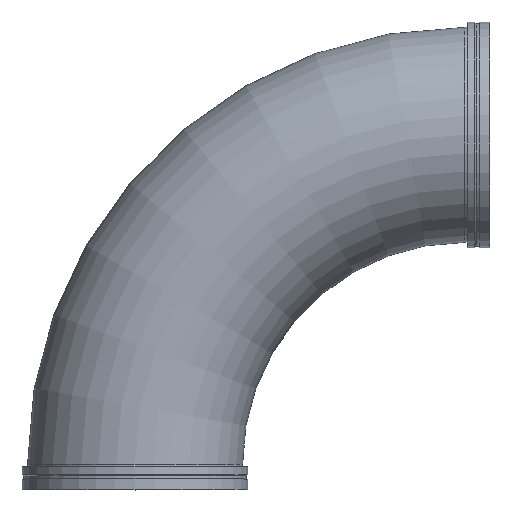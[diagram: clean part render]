
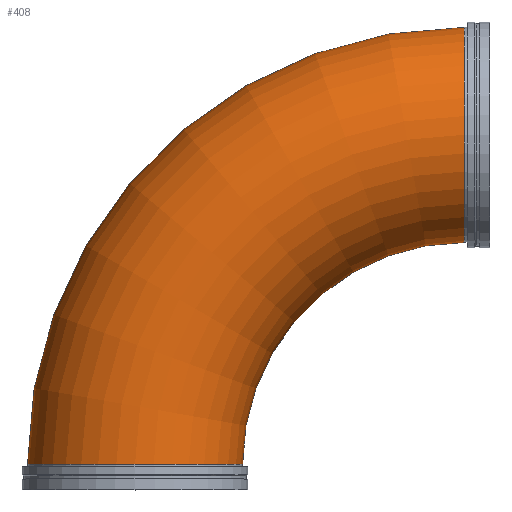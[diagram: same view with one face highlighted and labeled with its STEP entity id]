
A CAD part, top view. The second image highlights one B-rep face of the part: STEP entity #408.
In plain terms, the highlighted toroidal (fillet/blend) face has major radius 1555.75 mm and minor radius 508 mm.
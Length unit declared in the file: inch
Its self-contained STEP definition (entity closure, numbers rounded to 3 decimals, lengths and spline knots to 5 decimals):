
#46=TOROIDAL_SURFACE('',#484,61.25,20.);
#105=FACE_OUTER_BOUND('',#129,.T.);
#129=EDGE_LOOP('',(#346,#347,#348,#349,#350,#351));
#169=CIRCLE('',#482,20.);
#170=CIRCLE('',#483,20.);
#171=CIRCLE('',#485,41.25);
#172=CIRCLE('',#486,20.);
#173=CIRCLE('',#487,20.);
#207=VERTEX_POINT('',#756);
#208=VERTEX_POINT('',#758);
#209=VERTEX_POINT('',#762);
#210=VERTEX_POINT('',#764);
#256=EDGE_CURVE('',#207,#208,#169,.T.);
#257=EDGE_CURVE('',#208,#207,#170,.T.);
#258=EDGE_CURVE('',#208,#209,#171,.T.);
#259=EDGE_CURVE('',#209,#210,#172,.T.);
#260=EDGE_CURVE('',#210,#209,#173,.T.);
#346=ORIENTED_EDGE('',*,*,#256,.F.);
#347=ORIENTED_EDGE('',*,*,#257,.F.);
#348=ORIENTED_EDGE('',*,*,#258,.T.);
#349=ORIENTED_EDGE('',*,*,#259,.T.);
#350=ORIENTED_EDGE('',*,*,#260,.T.);
#351=ORIENTED_EDGE('',*,*,#258,.F.);
#408=ADVANCED_FACE('',(#105),#46,.T.);
#482=AXIS2_PLACEMENT_3D('',#759,#617,#618);
#483=AXIS2_PLACEMENT_3D('',#760,#619,#620);
#484=AXIS2_PLACEMENT_3D('',#761,#621,#622);
#485=AXIS2_PLACEMENT_3D('',#763,#623,#624);
#486=AXIS2_PLACEMENT_3D('',#765,#625,#626);
#487=AXIS2_PLACEMENT_3D('',#766,#627,#628);
#617=DIRECTION('center_axis',(1.,0.,0.));
#618=DIRECTION('ref_axis',(0.,-1.,0.));
#619=DIRECTION('center_axis',(1.,0.,0.));
#620=DIRECTION('ref_axis',(0.,-1.,0.));
#621=DIRECTION('center_axis',(0.,0.,-1.));
#622=DIRECTION('ref_axis',(-1.,0.,0.));
#623=DIRECTION('center_axis',(0.,0.,1.));
#624=DIRECTION('ref_axis',(-1.,0.,0.));
#625=DIRECTION('center_axis',(0.,1.,0.));
#626=DIRECTION('ref_axis',(1.,0.,0.));
#627=DIRECTION('center_axis',(0.,1.,0.));
#628=DIRECTION('ref_axis',(1.,0.,0.));
#756=CARTESIAN_POINT('',(61.25,86.,0.));
#758=CARTESIAN_POINT('',(61.25,46.,0.));
#759=CARTESIAN_POINT('Origin',(61.25,66.,0.));
#760=CARTESIAN_POINT('Origin',(61.25,66.,0.));
#761=CARTESIAN_POINT('Origin',(61.25,4.75,0.));
#762=CARTESIAN_POINT('',(20.,4.75,0.));
#763=CARTESIAN_POINT('Origin',(61.25,4.75,0.));
#764=CARTESIAN_POINT('',(-20.,4.75,0.));
#765=CARTESIAN_POINT('Origin',(0.,4.75,0.));
#766=CARTESIAN_POINT('Origin',(0.,4.75,0.));
